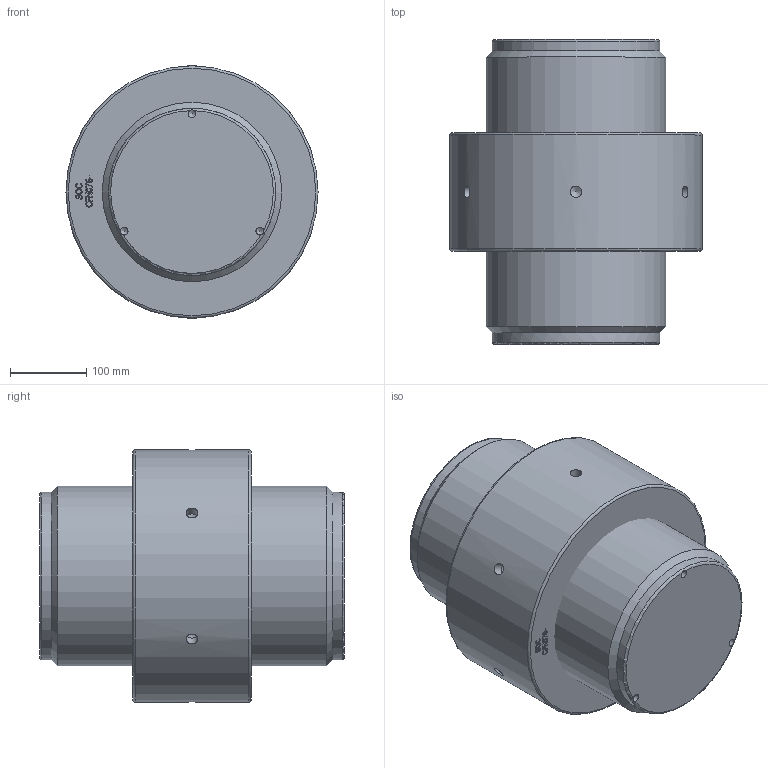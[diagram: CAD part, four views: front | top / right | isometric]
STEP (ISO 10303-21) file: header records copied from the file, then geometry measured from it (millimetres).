
FILE_DESCRIPTION(/* description */ (''),/* implementation_level */ '2;1');
FILE_NAME(/* name */ 'F:\Clienti LS\Redaelli\CYT\CYT\ARRNGEMENT\CYT076 61 061 0.stp',/* time_stamp */ '2021-05-09T08:49:53+02:00',/* author */ ('ranca'),/* organization */ (''),/* preprocessor_version */ 'ST-DEVELOPER v16.13',/* originating_system */ 'Autodesk Inventor 2018',/* authorisation */ '');
FILE_SCHEMA (('AUTOMOTIVE_DESIGN { 1 0 10303 214 3 1 1 }'));
Length unit declared in the file: millimetre
Products named in the file (3): CYT012-61-061-0; CYT012-61-061-0_1; CYT012-61-061-0_DADO
Assembly tree (2 placements, depth 2):
  CYT012-61-061-0
    CYT012-61-061-0_1
    CYT012-61-061-0_DADO
Bounding box: 330 x 399 x 330 mm (x, y, z)
Volume: 23957868.3 mm3; surface area: 736591.1 mm2
Topology: 2 solids, 2 shells, 336 faces, 923 edges, 614 vertices
Faces by surface type: bspline 186, plane 121, cylinder 14, cone 11, torus 4
Full cylindrical faces by diameter (mm): 10.106 x3, 15 x6, 219 x2, 228.505 x1, 235 x1, 330 x1
Entity records: 11578 total; most frequent: CARTESIAN_POINT 4474, ORIENTED_EDGE 1748, EDGE_CURVE 874, DIRECTION 825, VERTEX_POINT 594, LINE 459, VECTOR 459, EDGE_LOOP 390
